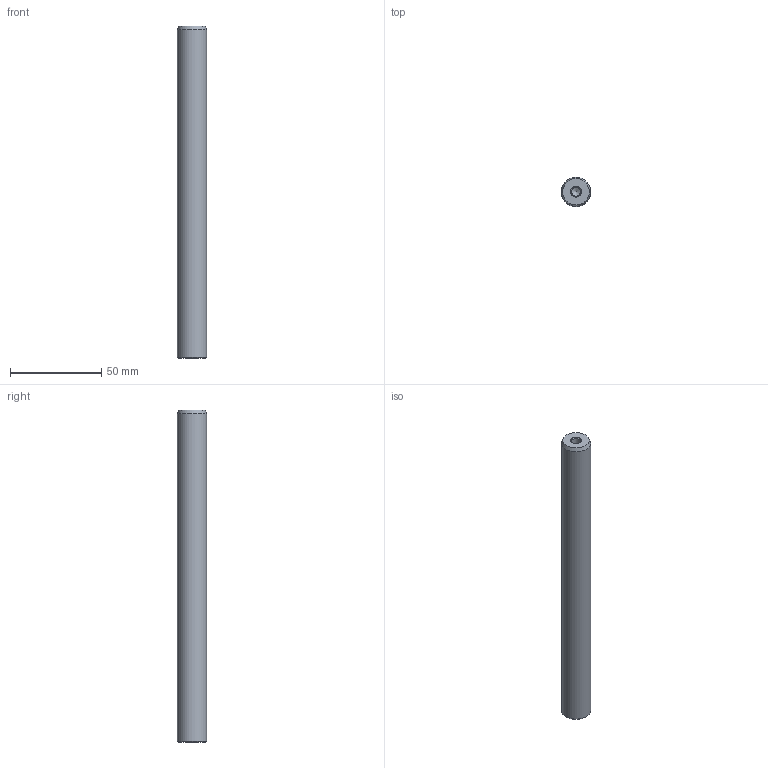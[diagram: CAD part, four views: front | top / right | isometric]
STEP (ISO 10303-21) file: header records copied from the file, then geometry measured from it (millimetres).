
FILE_DESCRIPTION( ( 'STEP AP214' ), '1' );
FILE_NAME( 'U:/Etudes/Top Solid/BIBLIO_Fournisseur/Colonnes UG/Ø16x182.step', '2004-12-22T12:36:24', ( ' ' ), ( ' ' ), 'XStep 1.0', ' ', ' ' );
FILE_SCHEMA( ( 'automotive_design' ) );
Length unit declared in the file: metre
Products named in the file (1): 1
Bounding box: 16 x 16 x 182 mm (x, y, z)
Volume: 35936.9 mm3; surface area: 9980.3 mm2
Topology: 1 solids, 1 shells, 13 faces, 27 edges, 16 vertices
Faces by surface type: cone 6, cylinder 5, plane 2
Full cylindrical faces by diameter (mm): 4.918 x4, 16 x1
Entity records: 382 total; most frequent: DIRECTION 52, CARTESIAN_POINT 40, AXIS2_PLACEMENT_3D 26, EDGE_LOOP 24, ORIENTED_EDGE 24, FACE_OUTER_BOUND 18, VERTEX_POINT 14, STYLED_ITEM 13
